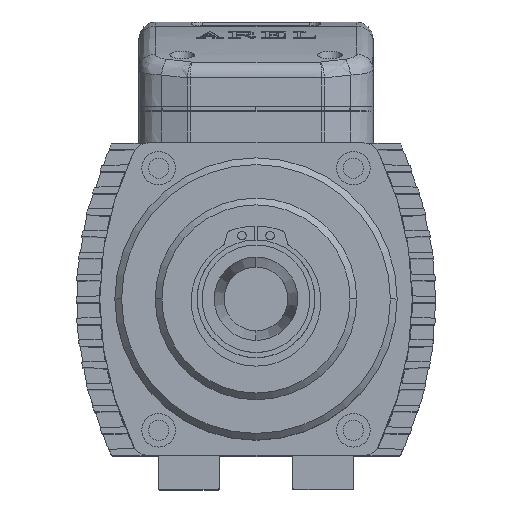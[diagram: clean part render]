
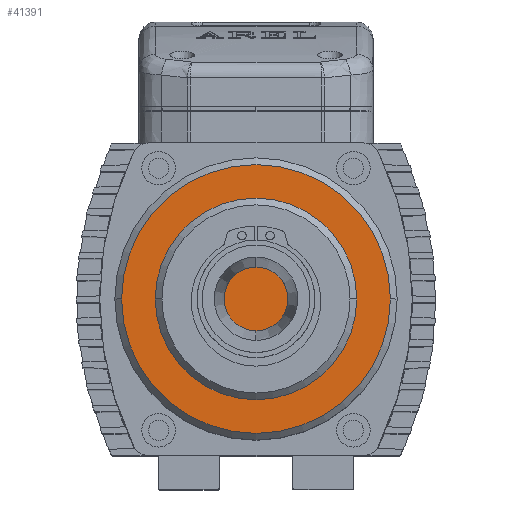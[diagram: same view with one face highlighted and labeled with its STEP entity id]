
A CAD part, top view. The second image highlights one B-rep face of the part: STEP entity #41391.
In plain terms, the highlighted planar face has unit normal (0, 0, 1).
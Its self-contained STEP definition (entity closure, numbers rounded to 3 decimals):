
#1884 = CARTESIAN_POINT ( 'NONE',  ( 0., 0., 50. ) ) ;
#5450 = EDGE_LOOP ( 'NONE', ( #40788, #14877 ) ) ;
#8081 = PLANE ( 'NONE',  #14344 ) ;
#11202 = FACE_OUTER_BOUND ( 'NONE', #5450, .T. ) ;
#12056 = AXIS2_PLACEMENT_3D ( 'NONE', #58648, #52446, #46196 ) ;
#14344 = AXIS2_PLACEMENT_3D ( 'NONE', #1884, #56332, #50083 ) ;
#14877 = ORIENTED_EDGE ( 'NONE', *, *, #44011, .T. ) ;
#17245 = DIRECTION ( 'NONE',  ( 1., 0., 0. ) ) ;
#21664 = VERTEX_POINT ( 'NONE', #49269 ) ;
#23497 = DIRECTION ( 'NONE',  ( 0., 0., 1. ) ) ;
#34657 = AXIS2_PLACEMENT_3D ( 'NONE', #35857, #23497, #17245 ) ;
#35857 = CARTESIAN_POINT ( 'NONE',  ( 0., 0., 50. ) ) ;
#37898 = VERTEX_POINT ( 'NONE', #41993 ) ;
#40788 = ORIENTED_EDGE ( 'NONE', *, *, #56996, .T. ) ;
#41391 = ADVANCED_FACE ( 'NONE', ( #11202 ), #8081, .T. ) ;
#41993 = CARTESIAN_POINT ( 'NONE',  ( -40., 0., 50. ) ) ;
#44011 = EDGE_CURVE ( 'NONE', #21664, #37898, #47074, .T. ) ;
#46196 = DIRECTION ( 'NONE',  ( 1., 0., 0. ) ) ;
#47074 = CIRCLE ( 'NONE', #12056, 40. ) ;
#49269 = CARTESIAN_POINT ( 'NONE',  ( 40., 0., 50. ) ) ;
#50083 = DIRECTION ( 'NONE',  ( 1., 0., 0. ) ) ;
#51608 = CIRCLE ( 'NONE', #34657, 40. ) ;
#52446 = DIRECTION ( 'NONE',  ( 0., 0., 1. ) ) ;
#56332 = DIRECTION ( 'NONE',  ( 0., 0., 1. ) ) ;
#56996 = EDGE_CURVE ( 'NONE', #37898, #21664, #51608, .T. ) ;
#58648 = CARTESIAN_POINT ( 'NONE',  ( 0., 0., 50. ) ) ;
